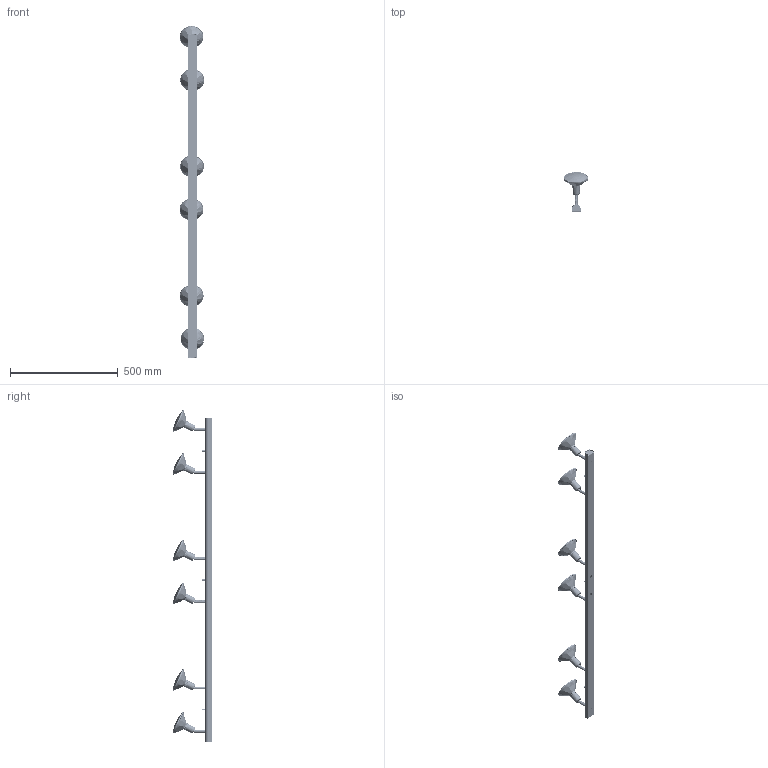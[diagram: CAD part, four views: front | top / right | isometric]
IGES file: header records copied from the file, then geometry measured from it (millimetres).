
Start section: SolidWorks IGES file using analytic representation for surfaces
Global section: file name: C:\Users\Asia\Desktop\IGS CROSS BASIC\basic 1500 Bｯ.IGS; native system: SolidWorks 2016; preprocessor: SolidWorks 2016; author: Asia; date: 161021.094001; units: millimetre
Bounding box: 114.52 x 181.93 x 1539.03 mm (x, y, z)
Surface area: 914916.4 mm2 (no closed solid volume)
Topology: 0 solids, 0 shells, 4969 faces, 65448 edges, 65184 vertices
Faces by surface type: bspline 2886, revolution 2083
